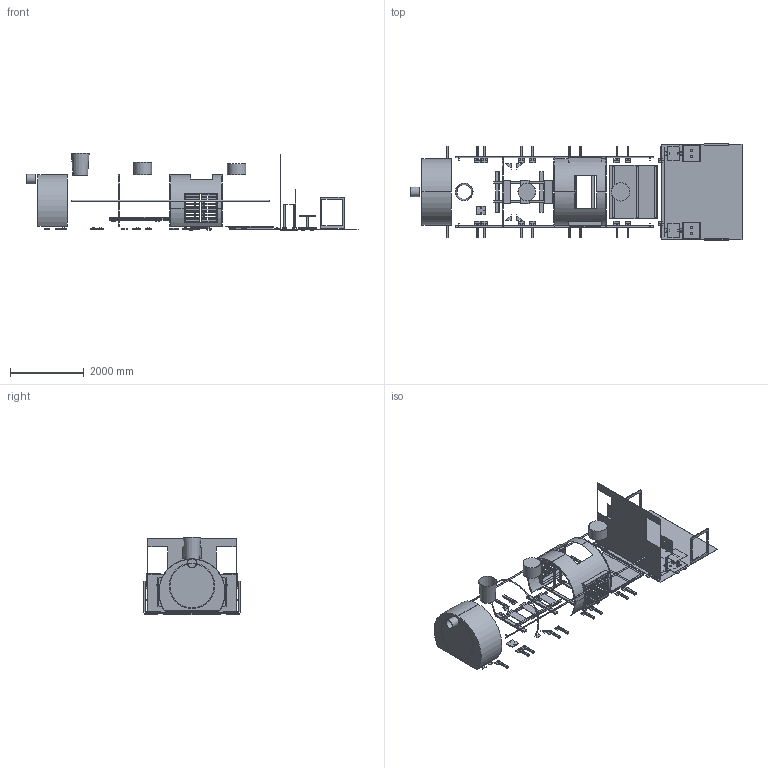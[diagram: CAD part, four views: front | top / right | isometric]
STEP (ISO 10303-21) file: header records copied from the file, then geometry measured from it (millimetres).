
FILE_DESCRIPTION(('Open CASCADE Model'),'2;1');
FILE_NAME('Open CASCADE Shape Model','2026-10-19T17:31:19',('Author'),( 'Open CASCADE'),'Open CASCADE STEP processor 7.8','Open CASCADE 7.8' ,'Unknown');
FILE_SCHEMA(('AUTOMOTIVE_DESIGN { 1 0 10303 214 1 1 1 1 }'));
Length unit declared in the file: millimetre
Products named in the file (172): Open CASCADE STEP translator 7.8 1; Open CASCADE STEP translator 7.8 1.1; Open CASCADE STEP translator 7.8 1.2; Open CASCADE STEP translator 7.8 1.3; Open CASCADE STEP translator 7.8 1.4; Open CASCADE STEP translator 7.8 1.5; Open CASCADE STEP translator 7.8 1.6; Open CASCADE STEP translator 7.8 1.7; Open CASCADE STEP translator 7.8 1.8; Open CASCADE STEP translator 7.8 1.9; Open CASCADE STEP translator 7.8 1.10; Open CASCADE STEP translator 7.8 1.11; Open CASCADE STEP translator 7.8 1.12; Open CASCADE STEP translator 7.8 1.13; Open CASCADE STEP translator 7.8 1.14; Open CASCADE STEP translator 7.8 1.15; Open CASCADE STEP translator 7.8 1.16; Open CASCADE STEP translator 7.8 1.17; Open CASCADE STEP translator 7.8 1.18; Open CASCADE STEP translator 7.8 1.19; Open CASCADE STEP translator 7.8 1.20; Open CASCADE STEP translator 7.8 1.21; Open CASCADE STEP translator 7.8 1.22; Open CASCADE STEP translator 7.8 1.23; Open CASCADE STEP translator 7.8 1.24; Open CASCADE STEP translator 7.8 1.25; Open CASCADE STEP translator 7.8 1.26; Open CASCADE STEP translator 7.8 1.27; Open CASCADE STEP translator 7.8 1.28; Open CASCADE STEP translator 7.8 1.29; Open CASCADE STEP translator 7.8 1.30; Open CASCADE STEP translator 7.8 1.31; Open CASCADE STEP translator 7.8 1.32; Open CASCADE STEP translator 7.8 1.33; Open CASCADE STEP translator 7.8 1.34; Open CASCADE STEP translator 7.8 1.35; Open CASCADE STEP translator 7.8 1.36; Open CASCADE STEP translator 7.8 1.37; Open CASCADE STEP translator 7.8 1.38; Open CASCADE STEP translator 7.8 1.39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
Assembly tree (171 placements, depth 2):
  Open CASCADE STEP translator 7.8 1
    Open CASCADE STEP translator 7.8 1.1
    Open CASCADE STEP translator 7.8 1.2
    Open CASCADE STEP translator 7.8 1.3
    Open CASCADE STEP translator 7.8 1.4
    Open CASCADE STEP translator 7.8 1.5
    Open CASCADE STEP translator 7.8 1.6
    Open CASCADE STEP translator 7.8 1.7
    Open CASCADE STEP translator 7.8 1.8
    Open CASCADE STEP translator 7.8 1.9
    Open CASCADE STEP translator 7.8 1.10
    Open CASCADE STEP translator 7.8 1.11
    Open CASCADE STEP translator 7.8 1.12
    Open CASCADE STEP translator 7.8 1.13
    Open CASCADE STEP translator 7.8 1.14
    Open CASCADE STEP translator 7.8 1.15
    Open CASCADE STEP translator 7.8 1.16
    Open CASCADE STEP translator 7.8 1.17
    Open CASCADE STEP translator 7.8 1.18
    Open CASCADE STEP translator 7.8 1.19
    Open CASCADE STEP translator 7.8 1.20
    Open CASCADE STEP translator 7.8 1.21
    Open CASCADE STEP translator 7.8 1.22
    Open CASCADE STEP translator 7.8 1.23
    Open CASCADE STEP translator 7.8 1.24
    Open CASCADE STEP translator 7.8 1.25
    Open CASCADE STEP translator 7.8 1.26
    Open CASCADE STEP translator 7.8 1.27
    Open CASCADE STEP translator 7.8 1.28
    Open CASCADE STEP translator 7.8 1.29
    Open CASCADE STEP translator 7.8 1.30
    Open CASCADE STEP translator 7.8 1.31
    Open CASCADE STEP translator 7.8 1.32
    Open CASCADE STEP translator 7.8 1.33
    Open CASCADE STEP translator 7.8 1.34
    Open CASCADE STEP translator 7.8 1.35
    Open CASCADE STEP translator 7.8 1.36
    Open CASCADE STEP translator 7.8 1.37
    Open CASCADE STEP translator 7.8 1.38
    Open CASCADE STEP translator 7.8 1.39
    Open CASCADE STEP translator 7.8 1.40
    Open CASCADE STEP translator 7.8 1.41
    Open CASCADE STEP translator 7.8 1.42
    Open CASCADE STEP translator 7.8 1.43
    Open CASCADE STEP translator 7.8 1.44
    Open CASCADE STEP translator 7.8 1.45
    Open CASCADE STEP translator 7.8 1.46
    Open CASCADE STEP translator 7.8 1.47
    Open CASCADE STEP translator 7.8 1.48
    Open CASCADE STEP translator 7.8 1.49
    Open CASCADE STEP translator 7.8 1.50
    Open CASCADE STEP translator 7.8 1.51
    Open CASCADE STEP translator 7.8 1.52
    Open CASCADE STEP translator 7.8 1.53
    Open CASCADE STEP translator 7.8 1.54
    Open CASCADE STEP translator 7.8 1.55
    Open CASCADE STEP translator 7.8 1.56
    Open CASCADE STEP translator 7.8 1.57
    Open CASCADE STEP translator 7.8 1.58
    Open CASCADE STEP translator 7.8 1.59
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Bounding box: 9025 x 2610 x 2105 mm (x, y, z)
Volume: 158248201.6 mm3; surface area: 72893384.5 mm2
Topology: 171 solids, 171 shells, 1430 faces, 3256 edges, 2170 vertices
Faces by surface type: plane 1195, cylinder 233, cone 2
Full cylindrical faces by diameter (mm): 9 x72, 11 x32, 14 x8, 14.5 x16, 16 x8, 16.5 x16, 18 x8, 20 x14, 20.4 x1, 22.5 x3, 25 x8, 26 x2, 32 x2, 50 x8, 89 x1, 244 x1, 260 x1, 474 x1, 480 x2, 494 x1, 500 x2, 1200 x1, 1240 x1
Entity records: 84446 total; most frequent: CARTESIAN_POINT 15066, DIRECTION 12014, LINE 7364, VECTOR 7364, ORIENTED_EDGE 6512, PCURVE 6512, DEFINITIONAL_REPRESENTATION 6512, EDGE_CURVE 3256
